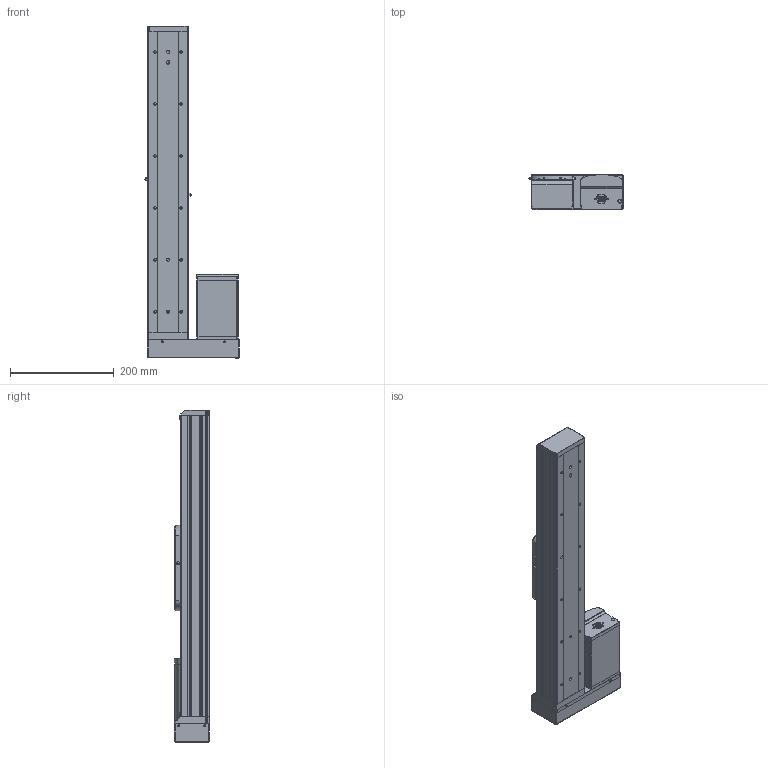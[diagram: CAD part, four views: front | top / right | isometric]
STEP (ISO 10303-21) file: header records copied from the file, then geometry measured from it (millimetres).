
FILE_DESCRIPTION (( 'STEP AP203' ), '1' );
FILE_NAME ('GERC80-400-FLXD.STEP', '2020-05-22T03:54:54', ( '' ), ( '' ), 'SwSTEP 2.0', 'SolidWorks 2019', '' );
FILE_SCHEMA (( 'CONFIG_CONTROL_DESIGN' ));
Products named in the file (3): Group1^GERC80-400-FLXD_defeature_GMT; Group2^GERC80-400-FLXD_defeature_GMT; GERC80-400-FLXD
Assembly tree (2 placements, depth 2):
  GERC80-400-FLXD
    Group1^GERC80-400-FLXD_defeature_GMT
    Group2^GERC80-400-FLXD_defeature_GMT
Bounding box: 182 x 67.5 x 639 mm (x, y, z)
Volume: 2134241.4 mm3; surface area: 601563.8 mm2
Topology: 34 solids, 34 shells, 3980 faces, 10509 edges, 6574 vertices
Faces by surface type: plane 1350, cylinder 1191, cone 951, bspline 256, torus 140, sphere 92
Entity records: 149305 total; most frequent: CARTESIAN_POINT 51332, DIRECTION 20978, ORIENTED_EDGE 20708, EDGE_CURVE 10354, AXIS2_PLACEMENT_3D 8058, VERTEX_POINT 6504, LINE 4862, VECTOR 4862
